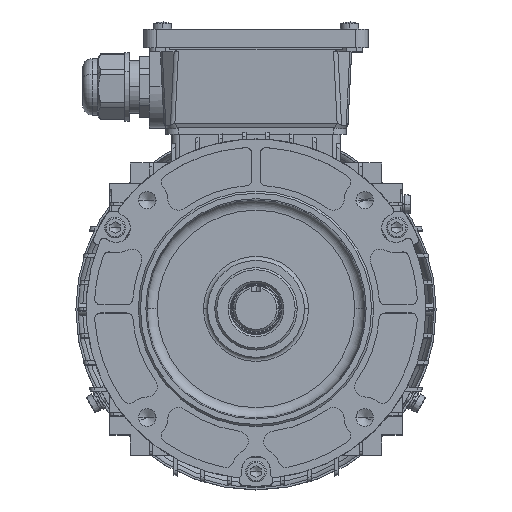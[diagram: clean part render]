
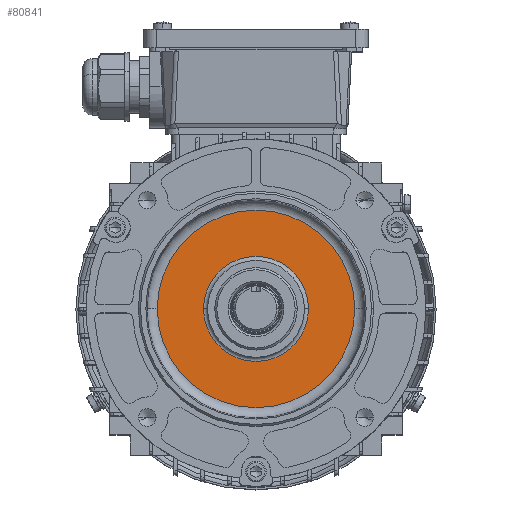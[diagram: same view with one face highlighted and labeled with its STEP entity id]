
A CAD part, top view. The second image highlights one B-rep face of the part: STEP entity #80841.
In plain terms, the highlighted planar face has unit normal (0, 0, 1).
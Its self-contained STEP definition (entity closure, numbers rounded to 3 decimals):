
#1020 = ORIENTED_EDGE ( 'NONE', *, *, #81613, .T. ) ;
#3953 = VERTEX_POINT ( 'NONE', #78251 ) ;
#8664 = VERTEX_POINT ( 'NONE', #87014 ) ;
#9226 = DIRECTION ( 'NONE',  ( 0., 0., 1. ) ) ;
#10928 = FACE_BOUND ( 'NONE', #87025, .T. ) ;
#11423 = CIRCLE ( 'NONE', #102395, 25.5 ) ;
#14054 = AXIS2_PLACEMENT_3D ( 'NONE', #77330, #25155, #86065 ) ;
#16660 = CARTESIAN_POINT ( 'NONE',  ( -54.417, 20.911, 175.19 ) ) ;
#17192 = EDGE_LOOP ( 'NONE', ( #103413, #1020 ) ) ;
#19644 = CARTESIAN_POINT ( 'NONE',  ( -79.917, 46.411, 175.19 ) ) ;
#22986 = CARTESIAN_POINT ( 'NONE',  ( -79.917, 20.911, 175.19 ) ) ;
#25155 = DIRECTION ( 'NONE',  ( 0., 0., 1. ) ) ;
#25270 = DIRECTION ( 'NONE',  ( 0., 0., 1. ) ) ;
#28382 = DIRECTION ( 'NONE',  ( -1., 0., 0. ) ) ;
#31742 = DIRECTION ( 'NONE',  ( 1., 0., 0. ) ) ;
#38840 = AXIS2_PLACEMENT_3D ( 'NONE', #77440, #25270, #86183 ) ;
#45603 = PLANE ( 'NONE',  #104165 ) ;
#49657 = AXIS2_PLACEMENT_3D ( 'NONE', #61509, #9226, #70219 ) ;
#59648 = VERTEX_POINT ( 'NONE', #16660 ) ;
#61509 = CARTESIAN_POINT ( 'NONE',  ( -79.917, 20.911, 175.19 ) ) ;
#62370 = CIRCLE ( 'NONE', #14054, 47.964 ) ;
#64850 = VERTEX_POINT ( 'NONE', #109308 ) ;
#67397 = ORIENTED_EDGE ( 'NONE', *, *, #100249, .F. ) ;
#70219 = DIRECTION ( 'NONE',  ( 1., 0., 0. ) ) ;
#77330 = CARTESIAN_POINT ( 'NONE',  ( -79.917, 20.911, 175.19 ) ) ;
#77440 = CARTESIAN_POINT ( 'NONE',  ( -79.917, 20.911, 175.19 ) ) ;
#78251 = CARTESIAN_POINT ( 'NONE',  ( -31.952, 20.911, 175.19 ) ) ;
#80562 = DIRECTION ( 'NONE',  ( 0., 0., -1. ) ) ;
#80841 = ADVANCED_FACE ( 'NONE', ( #10928, #100638 ), #45603, .F. ) ;
#81613 = EDGE_CURVE ( 'NONE', #64850, #3953, #62370, .T. ) ;
#83891 = DIRECTION ( 'NONE',  ( 0., 0., 1. ) ) ;
#84558 = ORIENTED_EDGE ( 'NONE', *, *, #106494, .F. ) ;
#86065 = DIRECTION ( 'NONE',  ( 1., 0., 0. ) ) ;
#86183 = DIRECTION ( 'NONE',  ( 1., 0., 0. ) ) ;
#87014 = CARTESIAN_POINT ( 'NONE',  ( -105.417, 20.911, 175.19 ) ) ;
#87025 = EDGE_LOOP ( 'NONE', ( #84558, #67397 ) ) ;
#97589 = CIRCLE ( 'NONE', #49657, 25.5 ) ;
#100249 = EDGE_CURVE ( 'NONE', #8664, #59648, #97589, .T. ) ;
#100638 = FACE_OUTER_BOUND ( 'NONE', #17192, .T. ) ;
#101576 = EDGE_CURVE ( 'NONE', #3953, #64850, #103969, .T. ) ;
#102395 = AXIS2_PLACEMENT_3D ( 'NONE', #22986, #83891, #31742 ) ;
#103413 = ORIENTED_EDGE ( 'NONE', *, *, #101576, .T. ) ;
#103969 = CIRCLE ( 'NONE', #38840, 47.964 ) ;
#104165 = AXIS2_PLACEMENT_3D ( 'NONE', #19644, #80562, #28382 ) ;
#106494 = EDGE_CURVE ( 'NONE', #59648, #8664, #11423, .T. ) ;
#109308 = CARTESIAN_POINT ( 'NONE',  ( -127.881, 20.911, 175.19 ) ) ;
